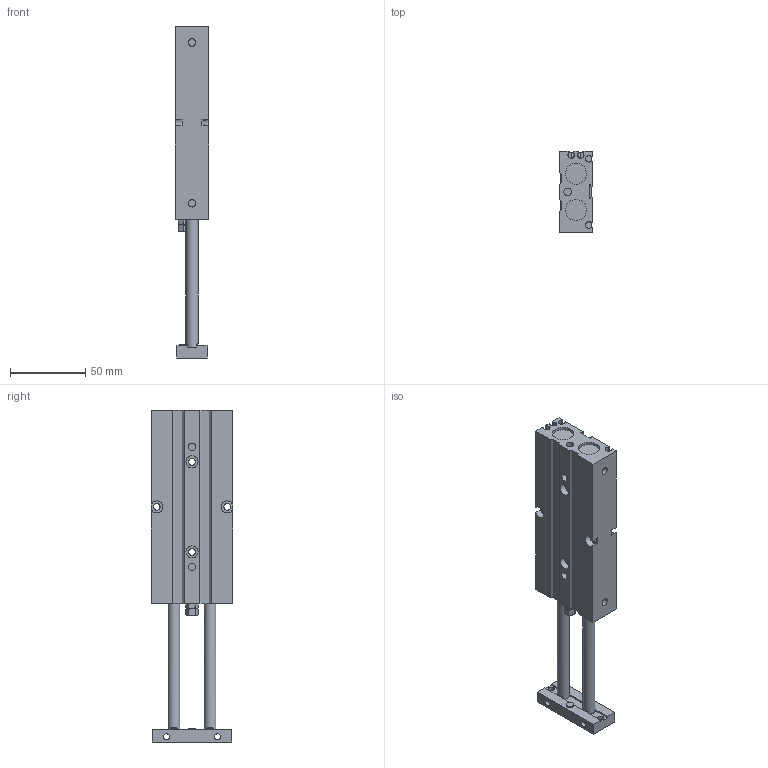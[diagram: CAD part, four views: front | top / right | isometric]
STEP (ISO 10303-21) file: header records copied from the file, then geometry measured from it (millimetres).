
FILE_DESCRIPTION((''),'2;1');
FILE_NAME('I:\3D電子目錄\氣缸\TD\TD16\TD16\TD16x75.stp','2007-08-06T09:39:07',('Administrator'),(''),'Autodesk Inventor 2008','Autodesk Inventor 2008','');
FILE_SCHEMA(('AUTOMOTIVE_DESIGN { 1 0 10303 214 1 1 1 1 }'));
Length unit declared in the file: millimetre
Products named in the file (1): TD16X75
Bounding box: 22 x 54 x 221 mm (x, y, z)
Volume: 151867.9 mm3; surface area: 38673.7 mm2
Topology: 1 solids, 3 shells, 179 faces, 465 edges, 304 vertices
Faces by surface type: plane 116, cylinder 42, bspline 12, cone 7, torus 2
Full cylindrical faces by diameter (mm): 4 x4, 4.5 x4, 5 x8, 6 x2, 7 x2, 8 x4, 14 x4
Entity records: 5819 total; most frequent: CARTESIAN_POINT 1627, ORIENTED_EDGE 824, DIRECTION 820, EDGE_CURVE 412, VERTEX_POINT 292, AXIS2_PLACEMENT_3D 274, VECTOR 272, LINE 272
